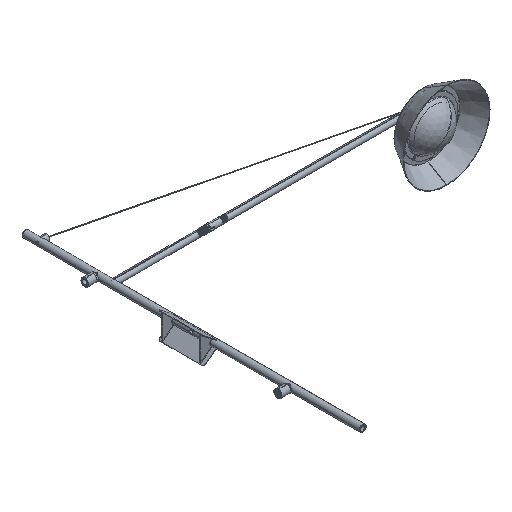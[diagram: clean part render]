
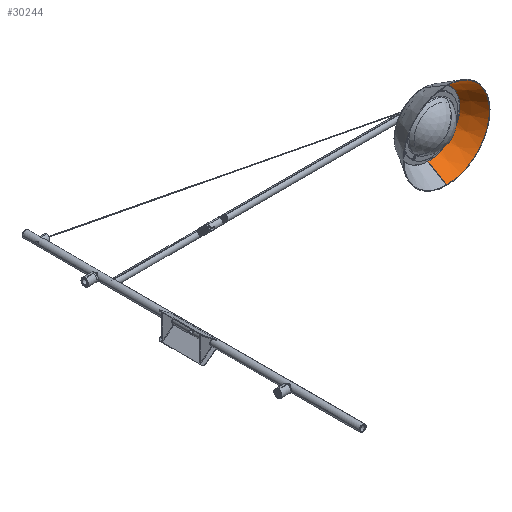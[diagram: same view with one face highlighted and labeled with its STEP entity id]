
A CAD part, isometric view. The second image highlights one B-rep face of the part: STEP entity #30244.
In plain terms, the highlighted conical face has half-angle 30.964 degrees and reference radius 59.142 mm.
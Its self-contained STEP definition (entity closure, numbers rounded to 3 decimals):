
#29 = CARTESIAN_POINT ( 'NONE',  ( 613., 173.058, 0. ) ) ;
#851 = LINE ( 'NONE', #15243, #16578 ) ;
#858 = EDGE_LOOP ( 'NONE', ( #19888, #34057, #33819, #28936 ) ) ;
#1628 = CONICAL_SURFACE ( 'NONE', #14926, 59.143, 0.54 ) ;
#2349 = DIRECTION ( 'NONE',  ( 0., 0., 1. ) ) ;
#3979 = CIRCLE ( 'NONE', #31214, 88.834 ) ;
#4460 = DIRECTION ( 'NONE',  ( 0., 0., -1. ) ) ;
#7544 = EDGE_CURVE ( 'NONE', #27006, #36763, #16889, .T. ) ;
#7857 = CARTESIAN_POINT ( 'NONE',  ( 613., 173.058, 60.599 ) ) ;
#8013 = DIRECTION ( 'NONE',  ( 0., 1., 0. ) ) ;
#8156 = CIRCLE ( 'NONE', #13600, 60.599 ) ;
#8159 = CARTESIAN_POINT ( 'NONE',  ( 613., 126., 88.834 ) ) ;
#8751 = DIRECTION ( 'NONE',  ( 0., -1., 0. ) ) ;
#8992 = CARTESIAN_POINT ( 'NONE',  ( 613., 126., -88.834 ) ) ;
#9564 = DIRECTION ( 'NONE',  ( 0., -0.857, 0.514 ) ) ;
#11044 = EDGE_CURVE ( 'NONE', #31152, #36763, #3979, .T. ) ;
#11203 = CARTESIAN_POINT ( 'NONE',  ( 613., 175.486, -59.143 ) ) ;
#13493 = DIRECTION ( 'NONE',  ( 0., -0.857, -0.514 ) ) ;
#13600 = AXIS2_PLACEMENT_3D ( 'NONE', #29, #8751, #34730 ) ;
#14926 = AXIS2_PLACEMENT_3D ( 'NONE', #18482, #22261, #4460 ) ;
#15243 = CARTESIAN_POINT ( 'NONE',  ( 613., 175.486, 59.143 ) ) ;
#16578 = VECTOR ( 'NONE', #9564, 1000. ) ;
#16889 = LINE ( 'NONE', #11203, #28162 ) ;
#18482 = CARTESIAN_POINT ( 'NONE',  ( 613., 175.486, 0. ) ) ;
#19888 = ORIENTED_EDGE ( 'NONE', *, *, #34436, .F. ) ;
#22261 = DIRECTION ( 'NONE',  ( 0., -1., 0. ) ) ;
#22443 = VERTEX_POINT ( 'NONE', #7857 ) ;
#27006 = VERTEX_POINT ( 'NONE', #33057 ) ;
#27400 = FACE_OUTER_BOUND ( 'NONE', #858, .T. ) ;
#28162 = VECTOR ( 'NONE', #13493, 1000. ) ;
#28936 = ORIENTED_EDGE ( 'NONE', *, *, #11044, .F. ) ;
#30244 = ADVANCED_FACE ( 'NONE', ( #27400 ), #1628, .F. ) ;
#31152 = VERTEX_POINT ( 'NONE', #8159 ) ;
#31214 = AXIS2_PLACEMENT_3D ( 'NONE', #33989, #8013, #2349 ) ;
#33057 = CARTESIAN_POINT ( 'NONE',  ( 613., 173.058, -60.599 ) ) ;
#33819 = ORIENTED_EDGE ( 'NONE', *, *, #7544, .T. ) ;
#33989 = CARTESIAN_POINT ( 'NONE',  ( 613., 126., 0. ) ) ;
#34057 = ORIENTED_EDGE ( 'NONE', *, *, #37468, .F. ) ;
#34436 = EDGE_CURVE ( 'NONE', #22443, #31152, #851, .T. ) ;
#34730 = DIRECTION ( 'NONE',  ( 0., 0., -1. ) ) ;
#36763 = VERTEX_POINT ( 'NONE', #8992 ) ;
#37468 = EDGE_CURVE ( 'NONE', #27006, #22443, #8156, .T. ) ;
